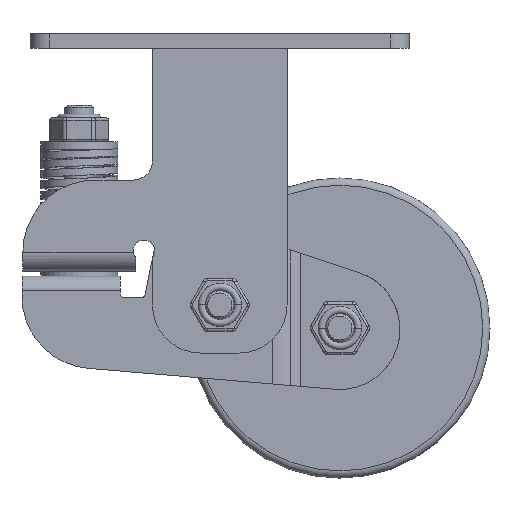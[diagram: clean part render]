
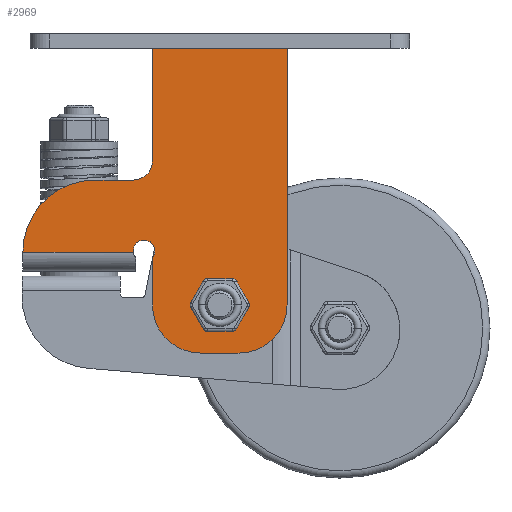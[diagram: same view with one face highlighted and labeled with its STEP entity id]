
A CAD part, front view. The second image highlights one B-rep face of the part: STEP entity #2969.
In plain terms, the highlighted planar face has unit normal (0, -1, 0).
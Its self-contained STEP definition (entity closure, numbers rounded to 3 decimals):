
#1123=LINE('',#17060,#1944);
#1131=LINE('',#17096,#1952);
#1134=LINE('',#17105,#1955);
#1135=LINE('',#17109,#1956);
#1136=LINE('',#17113,#1957);
#1137=LINE('',#17117,#1958);
#1138=LINE('',#17121,#1959);
#1139=LINE('',#17125,#1960);
#1140=LINE('',#17126,#1961);
#1141=LINE('',#17129,#1962);
#1142=LINE('',#17133,#1963);
#1143=LINE('',#17143,#1964);
#1144=LINE('',#17147,#1965);
#1944=VECTOR('',#13143,1.);
#1952=VECTOR('',#13175,1.);
#1955=VECTOR('',#13182,1.);
#1956=VECTOR('',#13185,1.);
#1957=VECTOR('',#13188,1.);
#1958=VECTOR('',#13191,1.);
#1959=VECTOR('',#13194,1.);
#1960=VECTOR('',#13197,1.);
#1961=VECTOR('',#13198,1.);
#1962=VECTOR('',#13201,1.);
#1963=VECTOR('',#13204,1.);
#1964=VECTOR('',#13213,1.);
#1965=VECTOR('',#13216,1.);
#2969=ADVANCED_FACE('',(#3971,#3972),#3646,.F.);
#3646=PLANE('',#11798);
#3971=FACE_BOUND('',#4074,.T.);
#3972=FACE_BOUND('',#4075,.T.);
#4074=EDGE_LOOP('',(#5010,#5011,#5012,#5013,#5014,#5015,#5016,#5017,#5018,
#5019,#5020,#5021));
#4075=EDGE_LOOP('',(#5022,#5023,#5024,#5025,#5026,#5027,#5028,#5029,#5030,
#5031,#5032,#5033,#5034,#5035,#5036));
#5010=ORIENTED_EDGE('',*,*,#9562,.F.);
#5011=ORIENTED_EDGE('',*,*,#9563,.F.);
#5012=ORIENTED_EDGE('',*,*,#9564,.F.);
#5013=ORIENTED_EDGE('',*,*,#9565,.F.);
#5014=ORIENTED_EDGE('',*,*,#9566,.F.);
#5015=ORIENTED_EDGE('',*,*,#9567,.F.);
#5016=ORIENTED_EDGE('',*,*,#9568,.F.);
#5017=ORIENTED_EDGE('',*,*,#9569,.F.);
#5018=ORIENTED_EDGE('',*,*,#9570,.F.);
#5019=ORIENTED_EDGE('',*,*,#9571,.F.);
#5020=ORIENTED_EDGE('',*,*,#9572,.F.);
#5021=ORIENTED_EDGE('',*,*,#9573,.F.);
#5022=ORIENTED_EDGE('',*,*,#9574,.F.);
#5023=ORIENTED_EDGE('',*,*,#9559,.T.);
#5024=ORIENTED_EDGE('',*,*,#9575,.F.);
#5025=ORIENTED_EDGE('',*,*,#9576,.T.);
#5026=ORIENTED_EDGE('',*,*,#9577,.F.);
#5027=ORIENTED_EDGE('',*,*,#9578,.T.);
#5028=ORIENTED_EDGE('',*,*,#9579,.F.);
#5029=ORIENTED_EDGE('',*,*,#9580,.F.);
#5030=ORIENTED_EDGE('',*,*,#9581,.F.);
#5031=ORIENTED_EDGE('',*,*,#9582,.F.);
#5032=ORIENTED_EDGE('',*,*,#9583,.T.);
#5033=ORIENTED_EDGE('',*,*,#9584,.F.);
#5034=ORIENTED_EDGE('',*,*,#9585,.T.);
#5035=ORIENTED_EDGE('',*,*,#9586,.F.);
#5036=ORIENTED_EDGE('',*,*,#9541,.T.);
#8439=VERTEX_POINT('',#17059);
#8440=VERTEX_POINT('',#17061);
#8456=VERTEX_POINT('',#17097);
#8457=VERTEX_POINT('',#17098);
#8458=VERTEX_POINT('',#17103);
#8459=VERTEX_POINT('',#17104);
#8460=VERTEX_POINT('',#17106);
#8461=VERTEX_POINT('',#17108);
#8462=VERTEX_POINT('',#17110);
#8463=VERTEX_POINT('',#17112);
#8464=VERTEX_POINT('',#17114);
#8465=VERTEX_POINT('',#17116);
#8466=VERTEX_POINT('',#17118);
#8467=VERTEX_POINT('',#17120);
#8468=VERTEX_POINT('',#17122);
#8469=VERTEX_POINT('',#17124);
#8470=VERTEX_POINT('',#17128);
#8471=VERTEX_POINT('',#17130);
#8472=VERTEX_POINT('',#17132);
#8473=VERTEX_POINT('',#17134);
#8474=VERTEX_POINT('',#17136);
#8475=VERTEX_POINT('',#17138);
#8476=VERTEX_POINT('',#17140);
#8477=VERTEX_POINT('',#17142);
#8478=VERTEX_POINT('',#17144);
#8479=VERTEX_POINT('',#17146);
#8480=VERTEX_POINT('',#17148);
#9541=EDGE_CURVE('',#8440,#8439,#1123,.T.);
#9559=EDGE_CURVE('',#8456,#8457,#1131,.T.);
#9562=EDGE_CURVE('',#8458,#8459,#11139,.T.);
#9563=EDGE_CURVE('',#8460,#8458,#1134,.T.);
#9564=EDGE_CURVE('',#8461,#8460,#11140,.T.);
#9565=EDGE_CURVE('',#8462,#8461,#1135,.T.);
#9566=EDGE_CURVE('',#8463,#8462,#11141,.T.);
#9567=EDGE_CURVE('',#8464,#8463,#1136,.T.);
#9568=EDGE_CURVE('',#8465,#8464,#11142,.T.);
#9569=EDGE_CURVE('',#8466,#8465,#1137,.T.);
#9570=EDGE_CURVE('',#8467,#8466,#11143,.T.);
#9571=EDGE_CURVE('',#8468,#8467,#1138,.T.);
#9572=EDGE_CURVE('',#8469,#8468,#11144,.T.);
#9573=EDGE_CURVE('',#8459,#8469,#1139,.T.);
#9574=EDGE_CURVE('',#8456,#8439,#1140,.T.);
#9575=EDGE_CURVE('',#8470,#8457,#11145,.T.);
#9576=EDGE_CURVE('',#8470,#8471,#1141,.T.);
#9577=EDGE_CURVE('',#8472,#8471,#11146,.T.);
#9578=EDGE_CURVE('',#8472,#8473,#1142,.T.);
#9579=EDGE_CURVE('',#8474,#8473,#11147,.T.);
#9580=EDGE_CURVE('',#8475,#8474,#11148,.T.);
#9581=EDGE_CURVE('',#8476,#8475,#11149,.T.);
#9582=EDGE_CURVE('',#8477,#8476,#11150,.T.);
#9583=EDGE_CURVE('',#8477,#8478,#1143,.T.);
#9584=EDGE_CURVE('',#8479,#8478,#11151,.T.);
#9585=EDGE_CURVE('',#8479,#8480,#1144,.T.);
#9586=EDGE_CURVE('',#8440,#8480,#11152,.T.);
#11139=CIRCLE('',#11784,1.);
#11140=CIRCLE('',#11785,1.);
#11141=CIRCLE('',#11786,1.);
#11142=CIRCLE('',#11787,1.);
#11143=CIRCLE('',#11788,1.);
#11144=CIRCLE('',#11789,1.);
#11145=CIRCLE('',#11790,8.);
#11146=CIRCLE('',#11791,30.);
#11147=CIRCLE('',#11792,4.5);
#11148=CIRCLE('',#11793,4.5);
#11149=CIRCLE('',#11794,4.5);
#11150=CIRCLE('',#11795,4.5);
#11151=CIRCLE('',#11796,20.);
#11152=CIRCLE('',#11797,20.);
#11784=AXIS2_PLACEMENT_3D('',#17102,#13180,#13181);
#11785=AXIS2_PLACEMENT_3D('',#17107,#13183,#13184);
#11786=AXIS2_PLACEMENT_3D('',#17111,#13186,#13187);
#11787=AXIS2_PLACEMENT_3D('',#17115,#13189,#13190);
#11788=AXIS2_PLACEMENT_3D('',#17119,#13192,#13193);
#11789=AXIS2_PLACEMENT_3D('',#17123,#13195,#13196);
#11790=AXIS2_PLACEMENT_3D('',#17127,#13199,#13200);
#11791=AXIS2_PLACEMENT_3D('',#17131,#13202,#13203);
#11792=AXIS2_PLACEMENT_3D('',#17135,#13205,#13206);
#11793=AXIS2_PLACEMENT_3D('',#17137,#13207,#13208);
#11794=AXIS2_PLACEMENT_3D('',#17139,#13209,#13210);
#11795=AXIS2_PLACEMENT_3D('',#17141,#13211,#13212);
#11796=AXIS2_PLACEMENT_3D('',#17145,#13214,#13215);
#11797=AXIS2_PLACEMENT_3D('',#17149,#13217,#13218);
#11798=AXIS2_PLACEMENT_3D('',#17150,#13219,#13220);
#13143=DIRECTION('',(0.,0.,1.));
#13175=DIRECTION('',(0.,0.,-1.));
#13180=DIRECTION('',(0.,-1.,0.));
#13181=DIRECTION('',(0.,0.,-1.));
#13182=DIRECTION('',(1.,0.,0.));
#13183=DIRECTION('',(0.,-1.,0.));
#13184=DIRECTION('',(-0.866,0.,-0.5));
#13185=DIRECTION('',(0.5,0.,-0.866));
#13186=DIRECTION('',(0.,-1.,0.));
#13187=DIRECTION('',(-0.866,0.,0.5));
#13188=DIRECTION('',(-0.5,0.,-0.866));
#13189=DIRECTION('',(0.,-1.,0.));
#13190=DIRECTION('',(0.,0.,1.));
#13191=DIRECTION('',(-1.,0.,0.));
#13192=DIRECTION('',(0.,-1.,0.));
#13193=DIRECTION('',(0.866,0.,0.5));
#13194=DIRECTION('',(-0.5,0.,0.866));
#13195=DIRECTION('',(0.,-1.,0.));
#13196=DIRECTION('',(0.866,0.,-0.5));
#13197=DIRECTION('',(0.5,0.,0.866));
#13198=DIRECTION('',(1.,0.,0.));
#13199=DIRECTION('',(0.,-1.,0.));
#13200=DIRECTION('',(0.,0.,-1.));
#13201=DIRECTION('',(-1.,0.,0.));
#13202=DIRECTION('',(0.,1.,0.));
#13203=DIRECTION('',(-1.,0.,0.));
#13204=DIRECTION('',(1.,0.,0.));
#13205=DIRECTION('',(0.,-1.,0.));
#13206=DIRECTION('',(-1.,0.,0.));
#13207=DIRECTION('',(0.,-1.,0.));
#13208=DIRECTION('',(-0.778,0.,0.629));
#13209=DIRECTION('',(0.,-1.,0.));
#13210=DIRECTION('',(1.,0.,0.));
#13211=DIRECTION('',(0.,-1.,0.));
#13212=DIRECTION('',(0.778,0.,-0.629));
#13213=DIRECTION('',(0.,0.,-1.));
#13214=DIRECTION('',(0.,1.,0.));
#13215=DIRECTION('',(0.,0.,-1.));
#13216=DIRECTION('',(1.,0.,0.));
#13217=DIRECTION('',(0.,1.,0.));
#13218=DIRECTION('',(1.,0.,0.));
#13219=DIRECTION('',(0.,1.,0.));
#13220=DIRECTION('',(-1.,0.,0.));
#17059=CARTESIAN_POINT('',(28.,-47.25,-6.));
#17060=CARTESIAN_POINT('',(28.,-47.25,-112.894));
#17061=CARTESIAN_POINT('',(28.,-47.25,-112.894));
#17096=CARTESIAN_POINT('',(-28.,-47.25,-47.894));
#17097=CARTESIAN_POINT('',(-28.,-47.25,-6.));
#17098=CARTESIAN_POINT('',(-28.,-47.25,-52.894));
#17102=CARTESIAN_POINT('',(5.195,-47.25,-121.892));
#17103=CARTESIAN_POINT('',(5.195,-47.25,-122.892));
#17104=CARTESIAN_POINT('',(6.061,-47.25,-122.392));
#17105=CARTESIAN_POINT('',(5.195,-47.25,-122.892));
#17106=CARTESIAN_POINT('',(-5.195,-47.25,-122.892));
#17107=CARTESIAN_POINT('',(-5.195,-47.25,-121.892));
#17108=CARTESIAN_POINT('',(-6.061,-47.25,-122.392));
#17109=CARTESIAN_POINT('',(-11.257,-47.25,-113.394));
#17110=CARTESIAN_POINT('',(-11.257,-47.25,-113.394));
#17111=CARTESIAN_POINT('',(-10.391,-47.25,-112.894));
#17112=CARTESIAN_POINT('',(-11.257,-47.25,-112.394));
#17113=CARTESIAN_POINT('',(-6.061,-47.25,-103.395));
#17114=CARTESIAN_POINT('',(-6.061,-47.25,-103.395));
#17115=CARTESIAN_POINT('',(-5.195,-47.25,-103.895));
#17116=CARTESIAN_POINT('',(-5.195,-47.25,-102.895));
#17117=CARTESIAN_POINT('',(-5.195,-47.25,-102.895));
#17118=CARTESIAN_POINT('',(5.195,-47.25,-102.895));
#17119=CARTESIAN_POINT('',(5.195,-47.25,-103.895));
#17120=CARTESIAN_POINT('',(6.061,-47.25,-103.395));
#17121=CARTESIAN_POINT('',(11.257,-47.25,-112.394));
#17122=CARTESIAN_POINT('',(11.257,-47.25,-112.394));
#17123=CARTESIAN_POINT('',(10.391,-47.25,-112.894));
#17124=CARTESIAN_POINT('',(11.257,-47.25,-113.394));
#17125=CARTESIAN_POINT('',(8.659,-47.25,-117.893));
#17126=CARTESIAN_POINT('',(0.,-47.25,-6.));
#17127=CARTESIAN_POINT('',(-36.,-47.25,-52.894));
#17128=CARTESIAN_POINT('',(-36.,-47.25,-60.894));
#17129=CARTESIAN_POINT('',(-36.,-47.25,-60.894));
#17130=CARTESIAN_POINT('',(-52.,-47.25,-60.894));
#17131=CARTESIAN_POINT('',(-52.,-47.25,-90.894));
#17132=CARTESIAN_POINT('',(-82.,-47.25,-90.894));
#17133=CARTESIAN_POINT('',(-82.,-47.25,-90.894));
#17134=CARTESIAN_POINT('',(-35.972,-47.25,-90.894));
#17135=CARTESIAN_POINT('',(-31.5,-47.25,-90.394));
#17136=CARTESIAN_POINT('',(-36.,-47.25,-90.394));
#17137=CARTESIAN_POINT('',(-31.5,-47.25,-90.394));
#17138=CARTESIAN_POINT('',(-35.,-47.25,-87.565));
#17139=CARTESIAN_POINT('',(-31.5,-47.25,-90.394));
#17140=CARTESIAN_POINT('',(-27.,-47.25,-90.394));
#17141=CARTESIAN_POINT('',(-31.5,-47.25,-90.394));
#17142=CARTESIAN_POINT('',(-28.,-47.25,-93.222));
#17143=CARTESIAN_POINT('',(-28.,-47.25,-93.222));
#17144=CARTESIAN_POINT('',(-28.,-47.25,-112.894));
#17145=CARTESIAN_POINT('',(-8.,-47.25,-112.894));
#17146=CARTESIAN_POINT('',(-8.,-47.25,-132.894));
#17147=CARTESIAN_POINT('',(-8.,-47.25,-132.894));
#17148=CARTESIAN_POINT('',(8.,-47.25,-132.894));
#17149=CARTESIAN_POINT('',(8.,-47.25,-112.894));
#17150=CARTESIAN_POINT('',(0.,-47.25,-0.5));
